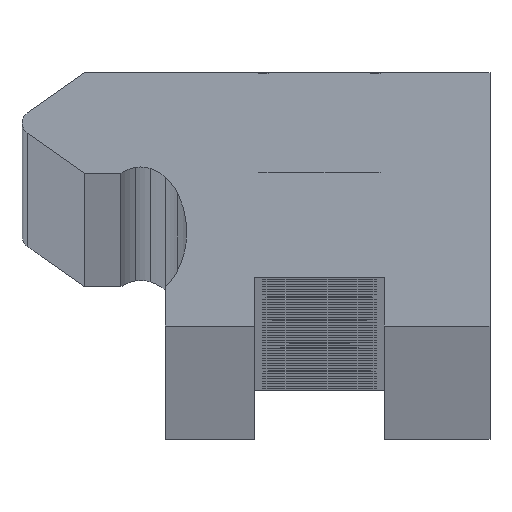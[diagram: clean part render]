
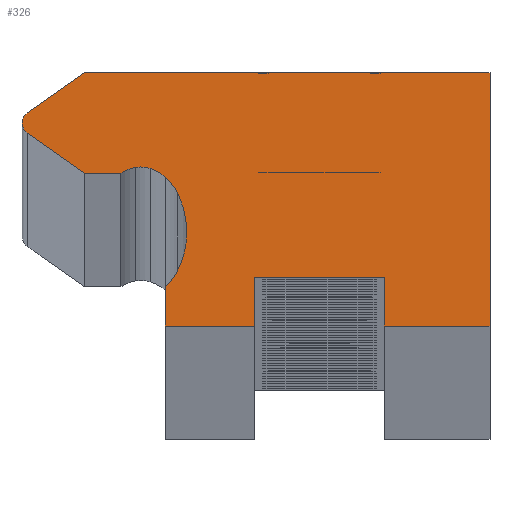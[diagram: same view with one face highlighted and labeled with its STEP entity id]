
A CAD part, top view. The second image highlights one B-rep face of the part: STEP entity #326.
In plain terms, the highlighted planar face has unit normal (0, 0, 1).
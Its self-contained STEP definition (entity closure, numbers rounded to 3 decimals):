
#326=ADVANCED_FACE('',(#969),#970,.T.);
#969=FACE_OUTER_BOUND('',#1613,.T.);
#970=PLANE('',#1614);
#1613=EDGE_LOOP('',(#3558,#3559,#3560,#3561,#3562,#3563,#3564,#3565,#3566,#3567,#3568,#3569,#3570,#3571,#3572,#3573,#3574,#3575,#3576,#3577,#3578));
#1614=AXIS2_PLACEMENT_3D('',#3579,#3580,#3581);
#3558=ORIENTED_EDGE('',*,*,#4166,.F.);
#3559=ORIENTED_EDGE('',*,*,#4219,.F.);
#3560=ORIENTED_EDGE('',*,*,#4216,.F.);
#3561=ORIENTED_EDGE('',*,*,#4213,.F.);
#3562=ORIENTED_EDGE('',*,*,#4210,.F.);
#3563=ORIENTED_EDGE('',*,*,#3607,.F.);
#3564=ORIENTED_EDGE('',*,*,#4209,.F.);
#3565=ORIENTED_EDGE('',*,*,#4205,.F.);
#3566=ORIENTED_EDGE('',*,*,#4202,.F.);
#3567=ORIENTED_EDGE('',*,*,#4199,.F.);
#3568=ORIENTED_EDGE('',*,*,#4196,.F.);
#3569=ORIENTED_EDGE('',*,*,#4193,.F.);
#3570=ORIENTED_EDGE('',*,*,#4190,.F.);
#3571=ORIENTED_EDGE('',*,*,#4187,.F.);
#3572=ORIENTED_EDGE('',*,*,#3613,.F.);
#3573=ORIENTED_EDGE('',*,*,#4185,.F.);
#3574=ORIENTED_EDGE('',*,*,#4182,.F.);
#3575=ORIENTED_EDGE('',*,*,#4179,.F.);
#3576=ORIENTED_EDGE('',*,*,#4176,.F.);
#3577=ORIENTED_EDGE('',*,*,#4173,.F.);
#3578=ORIENTED_EDGE('',*,*,#4170,.F.);
#3579=CARTESIAN_POINT('',(-2.082,8.347,4000.0));
#3580=DIRECTION('',(0.0,0.0,1.0));
#3581=DIRECTION('',(1.0,0.0,0.0));
#3607=EDGE_CURVE('',#4221,#4224,#4225,.T.);
#3613=EDGE_CURVE('',#4234,#4230,#4236,.T.);
#4166=EDGE_CURVE('',#5157,#5158,#5159,.T.);
#4170=EDGE_CURVE('',#5158,#5165,#5166,.T.);
#4173=EDGE_CURVE('',#5165,#5170,#5171,.T.);
#4176=EDGE_CURVE('',#5170,#5175,#5176,.T.);
#4179=EDGE_CURVE('',#5175,#5180,#5181,.T.);
#4182=EDGE_CURVE('',#5180,#5185,#5186,.T.);
#4185=EDGE_CURVE('',#5185,#4234,#5190,.T.);
#4187=EDGE_CURVE('',#4230,#5192,#5193,.T.);
#4190=EDGE_CURVE('',#5192,#5197,#5198,.T.);
#4193=EDGE_CURVE('',#5197,#5202,#5203,.T.);
#4196=EDGE_CURVE('',#5202,#5207,#5208,.T.);
#4199=EDGE_CURVE('',#5207,#5212,#5213,.T.);
#4202=EDGE_CURVE('',#5212,#5217,#5218,.T.);
#4205=EDGE_CURVE('',#5217,#5222,#5223,.T.);
#4209=EDGE_CURVE('',#5222,#4221,#5228,.T.);
#4210=EDGE_CURVE('',#4224,#5229,#5230,.T.);
#4213=EDGE_CURVE('',#5229,#5234,#5235,.T.);
#4216=EDGE_CURVE('',#5234,#5239,#5240,.T.);
#4219=EDGE_CURVE('',#5239,#5157,#5244,.T.);
#4221=VERTEX_POINT('',#5246);
#4224=VERTEX_POINT('',#5250);
#4225=CIRCLE('',#5251,0.76);
#4230=VERTEX_POINT('',#5257);
#4234=VERTEX_POINT('',#5262);
#4236=CIRCLE('',#5265,5.358);
#5157=VERTEX_POINT('',#6370);
#5158=VERTEX_POINT('',#6371);
#5159=LINE('',#6372,#6373);
#5165=VERTEX_POINT('',#6382);
#5166=LINE('',#6383,#6384);
#5170=VERTEX_POINT('',#6390);
#5171=LINE('',#6391,#6392);
#5175=VERTEX_POINT('',#6398);
#5176=LINE('',#6399,#6400);
#5180=VERTEX_POINT('',#6406);
#5181=LINE('',#6407,#6408);
#5185=VERTEX_POINT('',#6414);
#5186=CIRCLE('',#6415,3.62);
#5190=CIRCLE('',#6420,4.548);
#5192=VERTEX_POINT('',#6422);
#5193=CIRCLE('',#6423,5.358);
#5197=VERTEX_POINT('',#6428);
#5198=CIRCLE('',#6429,3.46);
#5202=VERTEX_POINT('',#6434);
#5203=CIRCLE('',#6435,2.437);
#5207=VERTEX_POINT('',#6440);
#5208=CIRCLE('',#6441,1.99);
#5212=VERTEX_POINT('',#6446);
#5213=CIRCLE('',#6447,2.363);
#5217=VERTEX_POINT('',#6452);
#5218=LINE('',#6453,#6454);
#5222=VERTEX_POINT('',#6460);
#5223=LINE('',#6461,#6462);
#5228=CIRCLE('',#6469,0.76);
#5229=VERTEX_POINT('',#6470);
#5230=LINE('',#6471,#6472);
#5234=VERTEX_POINT('',#6478);
#5235=LINE('',#6479,#6480);
#5239=VERTEX_POINT('',#6486);
#5240=LINE('',#6487,#6488);
#5244=LINE('',#6494,#6495);
#5246=CARTESIAN_POINT('',(-18.305,12.5,4000.0));
#5250=CARTESIAN_POINT('',(-17.981,13.123,4000.0));
#5251=AXIS2_PLACEMENT_3D('',#6499,#6500,#6501);
#5257=CARTESIAN_POINT('',(-8.167,5.789,4000.0));
#5262=CARTESIAN_POINT('',(-8.241,4.9,4000.0));
#5265=AXIS2_PLACEMENT_3D('',#6511,#6512,#6513);
#6370=CARTESIAN_POINT('',(4.0,0.0,4000.0));
#6371=CARTESIAN_POINT('',(4.0,3.0,4000.0));
#6372=CARTESIAN_POINT('',(4.0,3.0,4000.0));
#6373=VECTOR('',#7802,1.0);
#6382=CARTESIAN_POINT('',(-4.0,3.0,4000.0));
#6383=CARTESIAN_POINT('',(-4.0,3.0,4000.0));
#6384=VECTOR('',#7806,1.0);
#6390=CARTESIAN_POINT('',(-4.0,0.0,4000.0));
#6391=CARTESIAN_POINT('',(-4.0,0.0,4000.0));
#6392=VECTOR('',#7809,1.0);
#6398=CARTESIAN_POINT('',(-9.5,0.0,4000.0));
#6399=CARTESIAN_POINT('',(-9.5,0.0,4000.0));
#6400=VECTOR('',#7812,1.0);
#6406=CARTESIAN_POINT('',(-9.5,2.398,4000.0));
#6407=CARTESIAN_POINT('',(-9.5,2.398,4000.0));
#6408=VECTOR('',#7815,1.0);
#6414=CARTESIAN_POINT('',(-8.673,3.514,4000.0));
#6415=AXIS2_PLACEMENT_3D('',#7818,#7819,#7820);
#6420=AXIS2_PLACEMENT_3D('',#7825,#7826,#7827);
#6422=CARTESIAN_POINT('',(-8.707,8.135,4000.0));
#6423=AXIS2_PLACEMENT_3D('',#7831,#7832,#7833);
#6428=CARTESIAN_POINT('',(-9.473,9.158,4000.0));
#6429=AXIS2_PLACEMENT_3D('',#7838,#7839,#7840);
#6434=CARTESIAN_POINT('',(-10.42,9.705,4000.0));
#6435=AXIS2_PLACEMENT_3D('',#7845,#7846,#7847);
#6440=CARTESIAN_POINT('',(-11.318,9.765,4000.0));
#6441=AXIS2_PLACEMENT_3D('',#7852,#7853,#7854);
#6446=CARTESIAN_POINT('',(-12.219,9.4,4000.0));
#6447=AXIS2_PLACEMENT_3D('',#7859,#7860,#7861);
#6452=CARTESIAN_POINT('',(-14.443,9.4,4000.0));
#6453=CARTESIAN_POINT('',(-14.443,9.4,4000.0));
#6454=VECTOR('',#7866,1.0);
#6460=CARTESIAN_POINT('',(-17.981,11.877,4000.0));
#6461=CARTESIAN_POINT('',(-17.981,11.877,4000.0));
#6462=VECTOR('',#7869,1.0);
#6469=AXIS2_PLACEMENT_3D('',#7875,#7876,#7877);
#6470=CARTESIAN_POINT('',(-14.443,15.6,4000.0));
#6471=CARTESIAN_POINT('',(-14.443,15.6,4000.0));
#6472=VECTOR('',#7878,1.0);
#6478=CARTESIAN_POINT('',(10.5,15.6,4000.0));
#6479=CARTESIAN_POINT('',(10.5,15.6,4000.0));
#6480=VECTOR('',#7881,1.0);
#6486=CARTESIAN_POINT('',(10.5,0.0,4000.0));
#6487=CARTESIAN_POINT('',(10.5,0.0,4000.0));
#6488=VECTOR('',#7884,1.0);
#6494=CARTESIAN_POINT('',(4.0,0.0,4000.0));
#6495=VECTOR('',#7887,1.0);
#6499=CARTESIAN_POINT('',(-17.545,12.5,4000.0));
#6500=DIRECTION('',(0.0,0.0,-1.0));
#6501=DIRECTION('',(1.0,0.0,0.0));
#6511=CARTESIAN_POINT('',(-13.525,5.789,4000.0));
#6512=DIRECTION('',(0.0,0.0,1.0));
#6513=DIRECTION('',(1.0,0.0,0.0));
#7802=DIRECTION('',(0.0,1.0,0.0));
#7806=DIRECTION('',(-1.0,-0.0,-0.0));
#7809=DIRECTION('',(-0.0,-1.0,-0.0));
#7812=DIRECTION('',(-1.0,-0.0,-0.0));
#7815=DIRECTION('',(0.0,1.0,0.0));
#7818=CARTESIAN_POINT('',(-11.94,5.072,4000.0));
#7819=DIRECTION('',(0.0,0.0,1.0));
#7820=DIRECTION('',(1.0,0.0,0.0));
#7825=CARTESIAN_POINT('',(-12.743,5.543,4000.0));
#7826=DIRECTION('',(0.0,0.0,1.0));
#7827=DIRECTION('',(1.0,0.0,0.0));
#7831=CARTESIAN_POINT('',(-13.525,5.789,4000.0));
#7832=DIRECTION('',(0.0,0.0,1.0));
#7833=DIRECTION('',(1.0,0.0,0.0));
#7838=CARTESIAN_POINT('',(-11.812,6.609,4000.0));
#7839=DIRECTION('',(0.0,0.0,1.0));
#7840=DIRECTION('',(1.0,0.0,0.0));
#7845=CARTESIAN_POINT('',(-11.135,7.375,4000.0));
#7846=DIRECTION('',(0.0,0.0,1.0));
#7847=DIRECTION('',(1.0,0.0,0.0));
#7852=CARTESIAN_POINT('',(-10.997,7.801,4000.0));
#7853=DIRECTION('',(0.0,0.0,1.0));
#7854=DIRECTION('',(1.0,0.0,0.0));
#7859=CARTESIAN_POINT('',(-10.901,7.439,4000.0));
#7860=DIRECTION('',(0.0,0.0,1.0));
#7861=DIRECTION('',(1.0,0.0,0.0));
#7866=DIRECTION('',(-1.0,-0.0,-0.0));
#7869=DIRECTION('',(-0.819,0.574,0.0));
#7875=CARTESIAN_POINT('',(-17.545,12.5,4000.0));
#7876=DIRECTION('',(0.0,0.0,-1.0));
#7877=DIRECTION('',(1.0,0.0,0.0));
#7878=DIRECTION('',(0.819,0.574,0.0));
#7881=DIRECTION('',(1.0,0.0,0.0));
#7884=DIRECTION('',(-0.0,-1.0,-0.0));
#7887=DIRECTION('',(-1.0,-0.0,-0.0));
